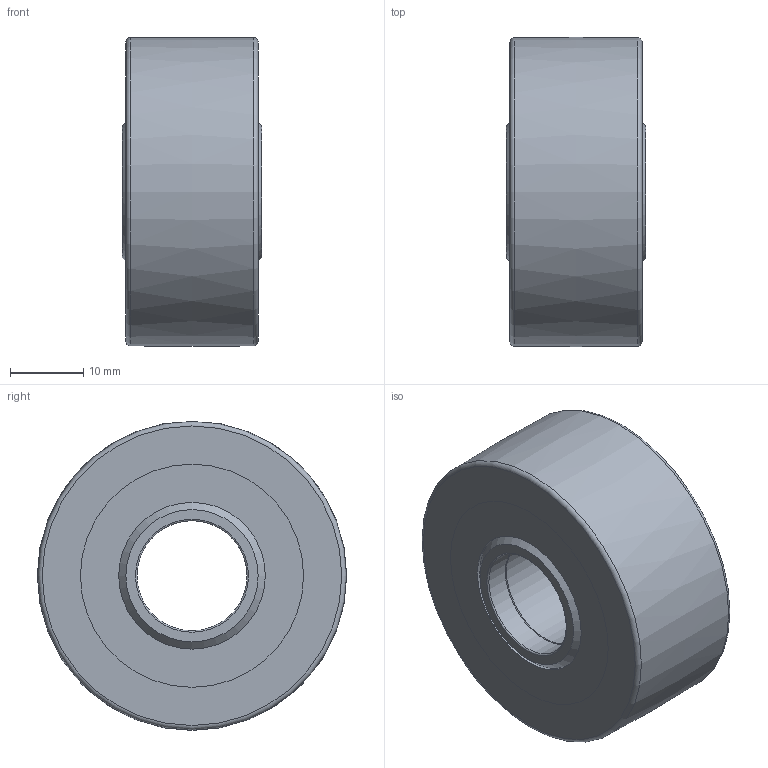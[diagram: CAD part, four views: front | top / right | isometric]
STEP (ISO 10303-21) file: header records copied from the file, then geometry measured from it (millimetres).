
FILE_DESCRIPTION(/* description */ (''),/* implementation_level */ '2;1');
FILE_NAME(/* name */ 'C:\Users\OUREHANEKD\Desktop\Ložiská 3D\MODELY\Ihlove loziska\NUTR\NUTR--\NUTR1542.stp',/* time_stamp */ '2016-10-31T13:16:49+01:00',/* author */ ('OUREHANEKD'),/* organization */ (''),/* preprocessor_version */ 'ST-DEVELOPER v15.6',/* originating_system */ 'Autodesk Inventor 2015',/* authorisation */ '');
FILE_SCHEMA (('AUTOMOTIVE_DESIGN { 1 0 10303 214 3 1 1 }'));
Length unit declared in the file: millimetre
Products named in the file (6): NUTR1542-01; NUTR1542-02; NUTR1542-kr; NUTR1542-seal; NUTR1542-needle; NUTR1542
Assembly tree (20 placements, depth 2):
  NUTR1542
    NUTR1542-01
    NUTR1542-02
    NUTR1542-kr
    NUTR1542-seal
    NUTR1542-needle  x16
Bounding box: 19 x 42.16 x 42.09 mm (x, y, z)
Volume: 20048.8 mm3; surface area: 17145.3 mm2
Topology: 22 solids, 22 shells, 94 faces, 124 edges, 80 vertices
Faces by surface type: plane 50, cylinder 33, cone 6, torus 4, bspline 1
Full cylindrical faces by diameter (mm): 4.986 x16, 15 x3, 20 x4, 24.828 x1, 29.22 x4, 30.408 x4, 34.8 x1
Entity records: 1290 total; most frequent: DIRECTION 248, CARTESIAN_POINT 204, AXIS2_PLACEMENT_3D 124, ORIENTED_EDGE 102, EDGE_LOOP 95, EDGE_CURVE 51, CIRCLE 50, VERTEX_POINT 50
